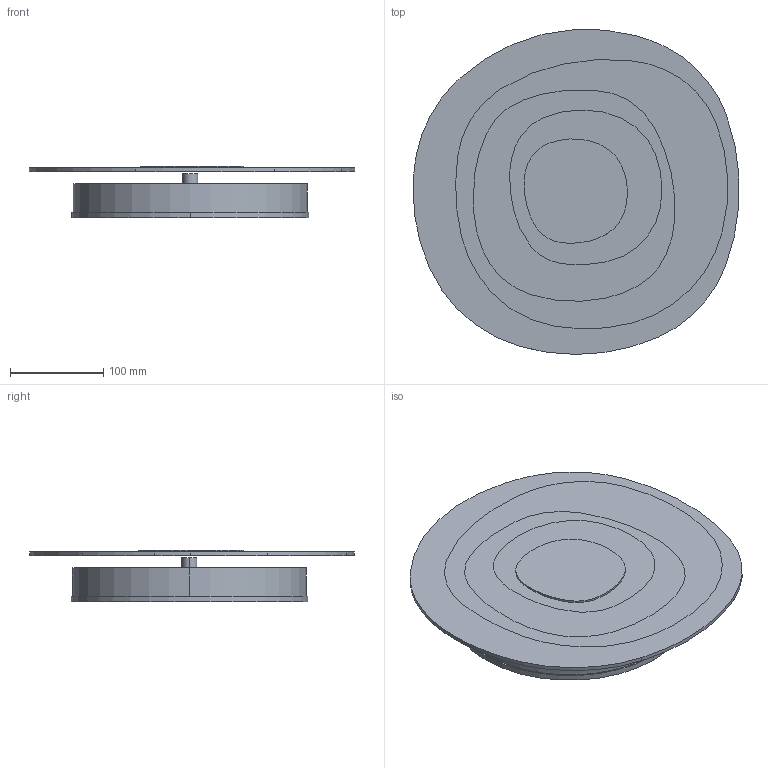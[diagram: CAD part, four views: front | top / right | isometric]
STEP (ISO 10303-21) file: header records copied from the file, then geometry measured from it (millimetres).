
FILE_DESCRIPTION (( 'STEP AP203' ), '1' );
FILE_NAME ('BETA_SMALL P-PL_STEP.STEP', '2016-01-07T14:42:48', ( 'admin' ), ( '' ), 'SwSTEP 2.0', 'SolidWorks 2015', '' );
FILE_SCHEMA (( 'CONFIG_CONTROL_DESIGN' ));
Length unit declared in the file: millimetre
Products named in the file (2): BETA_SMALL P-PL_STEP
Bounding box: 349.68 x 348.55 x 55.5 mm (x, y, z)
Surface area: 351871.7 mm2 (no closed solid volume)
Topology: 0 solids, 12 shells, 110 faces, 385 edges, 289 vertices
Faces by surface type: cylinder 64, bspline 20, plane 14, cone 12
Entity records: 7056 total; most frequent: CARTESIAN_POINT 3496, DIRECTION 727, ORIENTED_EDGE 691, EDGE_CURVE 385, VERTEX_POINT 289, AXIS2_PLACEMENT_3D 276, CIRCLE 184, VECTOR 175
